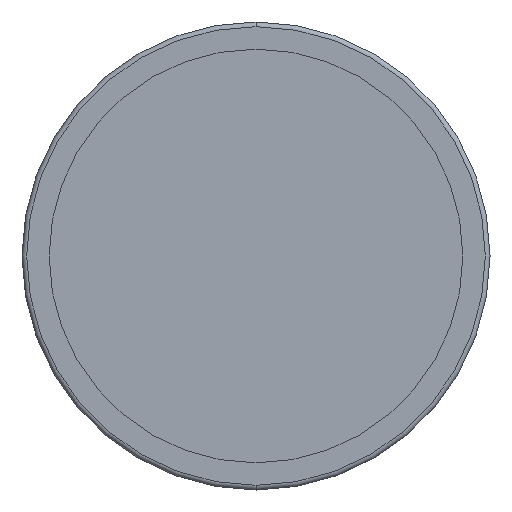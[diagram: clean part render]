
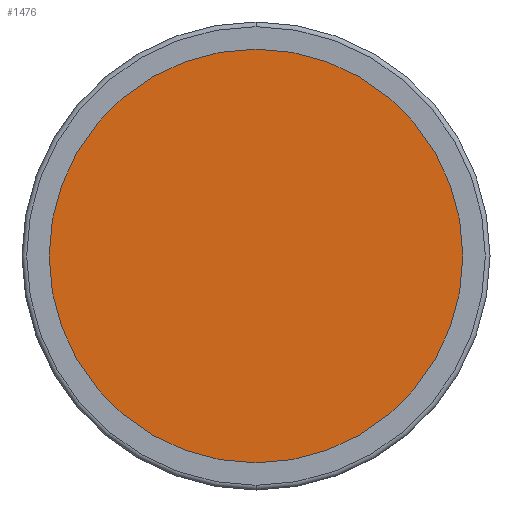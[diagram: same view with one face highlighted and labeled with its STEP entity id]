
A CAD part, front view. The second image highlights one B-rep face of the part: STEP entity #1476.
In plain terms, the highlighted planar face has unit normal (0, -1, 0).
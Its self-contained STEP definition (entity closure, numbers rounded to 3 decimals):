
#30 = AXIS2_PLACEMENT_3D ( 'NONE', #1905, #1713, #1531 ) ;
#190 = PLANE ( 'NONE',  #419 ) ;
#392 = EDGE_LOOP ( 'NONE', ( #2112, #1440 ) ) ;
#419 = AXIS2_PLACEMENT_3D ( 'NONE', #974, #1748, #1803 ) ;
#540 = CIRCLE ( 'NONE', #1143, 43.75 ) ;
#544 = DIRECTION ( 'NONE',  ( 0., 0., 1. ) ) ;
#972 = CARTESIAN_POINT ( 'NONE',  ( 0., -3., -43.75 ) ) ;
#974 = CARTESIAN_POINT ( 'NONE',  ( -43.75, -3., 0. ) ) ;
#1123 = CARTESIAN_POINT ( 'NONE',  ( 0., -3., 0. ) ) ;
#1143 = AXIS2_PLACEMENT_3D ( 'NONE', #1123, #2288, #544 ) ;
#1440 = ORIENTED_EDGE ( 'NONE', *, *, #2058, .F. ) ;
#1476 = ADVANCED_FACE ( 'NONE', ( #1709 ), #190, .T. ) ;
#1531 = DIRECTION ( 'NONE',  ( 0., 0., 1. ) ) ;
#1709 = FACE_OUTER_BOUND ( 'NONE', #392, .T. ) ;
#1713 = DIRECTION ( 'NONE',  ( 0., 1., 0. ) ) ;
#1748 = DIRECTION ( 'NONE',  ( 0., -1., 0. ) ) ;
#1766 = VERTEX_POINT ( 'NONE', #2160 ) ;
#1803 = DIRECTION ( 'NONE',  ( 0., 0., -1. ) ) ;
#1905 = CARTESIAN_POINT ( 'NONE',  ( 0., -3., 0. ) ) ;
#1971 = CIRCLE ( 'NONE', #30, 43.75 ) ;
#1981 = EDGE_CURVE ( 'NONE', #1766, #2285, #540, .T. ) ;
#2058 = EDGE_CURVE ( 'NONE', #2285, #1766, #1971, .T. ) ;
#2112 = ORIENTED_EDGE ( 'NONE', *, *, #1981, .F. ) ;
#2160 = CARTESIAN_POINT ( 'NONE',  ( 0., -3., 43.75 ) ) ;
#2285 = VERTEX_POINT ( 'NONE', #972 ) ;
#2288 = DIRECTION ( 'NONE',  ( 0., 1., 0. ) ) ;
